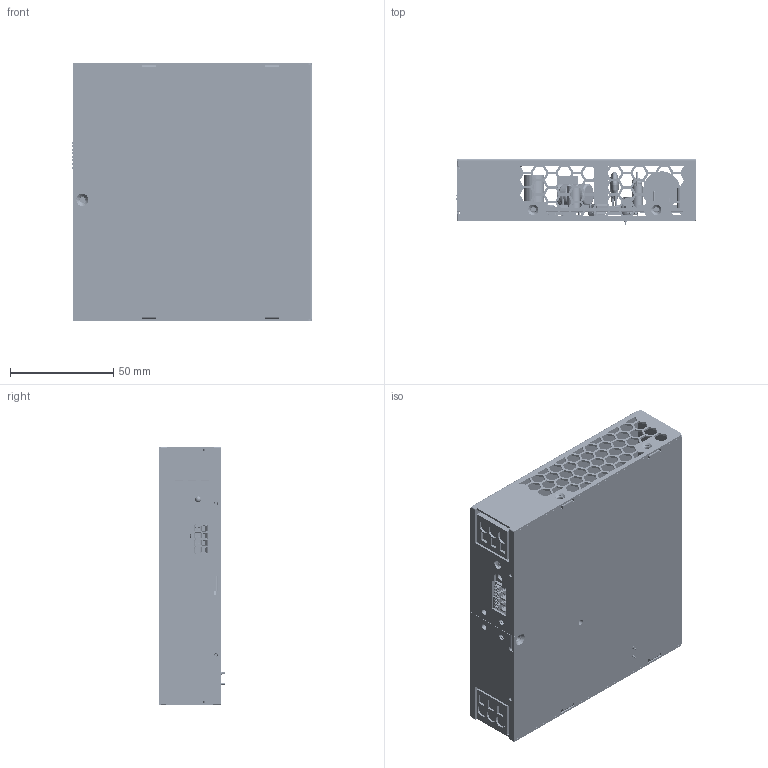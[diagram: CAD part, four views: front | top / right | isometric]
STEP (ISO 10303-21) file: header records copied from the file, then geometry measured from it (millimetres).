
FILE_DESCRIPTION(('Creo Elements/Direct Modeling STEP Export'),'2;1');
FILE_NAME('XDR-75PI.stp','2025-12-18T 9:54:03',(''),(''),'Creo Elements/Direct Modeling STEP processor for AP214 (Solid Model)','Creo Elements/Direct Modeling 19.0G 27-Nov-2017 (C) Parametric Technology GmbH','');
FILE_SCHEMA(('AUTOMOTIVE_DESIGN { 1 0 10303 214 1 1 1 1 }'));
Length unit declared in the file: millimetre
Products named in the file (505): 下盖; 上盖; BOARD.PRT; 1GG4CU-SZ039.PRT; SZ039.ASM; JF1.ASM; PIN-P7_5_RGB12632256.PRT; CYLINDER-15709.PRT; 841911400.ASM; CYLINDER-15901.PRT; 841913376.ASM; CYLINDER-16093.PRT; 841910640.ASM; CYLINDER-16285.PRT; 841912920.ASM; CYLINDER-16477.PRT; 841895896.ASM; CYLINDER-16669.PRT; 841896808.ASM; CYLINDER-16861.PRT; 841915048.ASM; FS1.ASM; EXTRUDED-17076.PRT; 1FF2.ASM; TP1.ASM; 841904864_1.PRT; 841904864_2.PRT; 841904864_3.PRT; 841904864_4.PRT; 841904864.ASM; R2.ASM; R1.ASM; EXTRUDED-32727.PRT; 906491456.ASM.7; CYLINDER-33104.PRT; 841913224.ASM.6; EXTRUDED-33311.PRT; 906491616.ASM; C1.ASM; TVR10471KFC3FW.PRT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
Assembly tree (717 placements, depth 8):
  上下盖直插
    DG212R-THR-3.5-05P-1Y-1000A_Z(H).1.1
    XDR-75A-R0X.step.1
      PCB.ASM
        FREE-MODELS.ASM
          PRODUCT_511392.ASM
            FT-63EP_1-704230_PRT.PRT
        HS1.ASM
          1414960016.ASM
            EXTRUDED-511012.PRT
          1414933776.ASM
            EXTRUDED-509704.PRT
          1GG2-MHS059.ASM
            EXTRUDED-505550.PRT
        C131.ASM
          550998920.PRT
        J100.ASM
          550976120.ASM
            550976120_4.PRT
            550976120_3.PRT
            550976120_2.PRT
            550976120_1.PRT
        D133.ASM
          2CDX-SOT23.PRT
        RY1.ASM
          550994816.ASM  x4
            CYLINDER-504856.PRT
          1414953296.ASM
            EXTRUDED-505053.PRT
        TP1A.ASM
          1FF2.ASM
            EXTRUDED-20352.PRT
        RTH2.ASM
          1ARC-SCK-103.ASM
            1ARC-SCK-103_3.PRT
            1ARC-SCK-103_2.PRT
            1ARC-SCK-103_1.PRT
        D12.ASM
          2CDX-SOD323.PRT
        D10.ASM
          647436224.ASM  x2
            EXTRUDED-139824.PRT
          647436064.ASM
            EXTRUDED-139452.PRT
          647435904.ASM
            EXTRUDED-139080.PRT
        D24.ASM
          2CDX-SOD323.PRT
        Q1.ASM
          1414936976.ASM.6  x2
            EXTRUDED-501856.PRT
          1CDX-TO220F-A_AKA_-VT-1_6751473.PRT
          1CDX-TO220F-A_AKA_-VT-1.ASM
            EXTRUDED-494439.PRT
        LED1.ASM
          1CDC-LEDD3GC.ASM
            SW3DPS-LEDD3GC_OPEN_CASCADE_STE.ASM
              SW3DPS-LEDD3GC_355255760.ASM
                SW3DPS-LEDD3GC_EXTRUDED2.PRT
              SW3DPS-LEDD3GC_355027936.ASM
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Bounding box: 116.6 x 32.3 x 125.2 mm (x, y, z)
Volume: 122761 mm3; surface area: 146007.4 mm2
Topology: 607 solids, 611 shells, 16598 faces, 43364 edges, 28428 vertices
Faces by surface type: plane 9917, extrusion 3763, cylinder 2207, sphere 377, torus 206, bspline 68, cone 50, revolution 10
Entity records: 258325 total; most frequent: CARTESIAN_POINT 72855, ORIENTED_EDGE 33780, DIRECTION 30275, EDGE_CURVE 16938, VECTOR 12807, LINE 12139, VERTEX_POINT 11165, AXIS2_PLACEMENT_3D 8729
